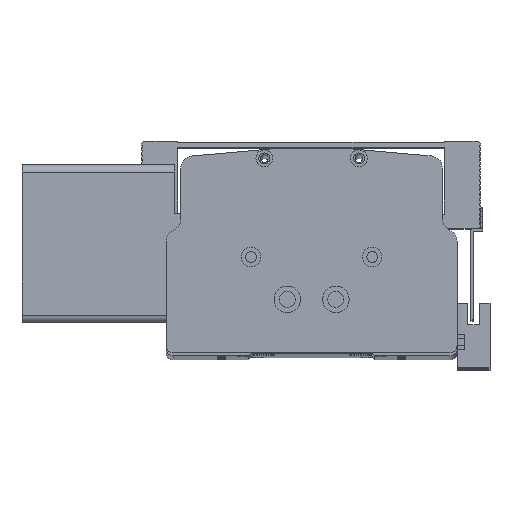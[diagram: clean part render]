
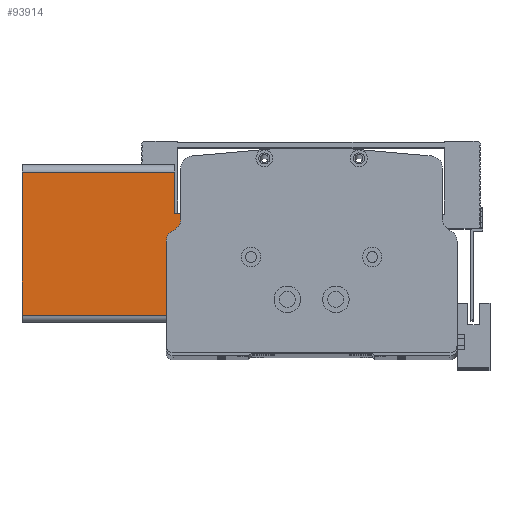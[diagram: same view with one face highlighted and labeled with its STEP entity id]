
A CAD part, top view. The second image highlights one B-rep face of the part: STEP entity #93914.
In plain terms, the highlighted planar face has unit normal (0, 0, 1) as drawn and (-1, 0, 0) by its records, which use the part's own axes.
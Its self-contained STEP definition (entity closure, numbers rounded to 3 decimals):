
#178 = VERTEX_POINT ( 'NONE', #56815 ) ;
#879 = VECTOR ( 'NONE', #89812, 1000. ) ;
#1244 = EDGE_CURVE ( 'NONE', #90099, #17558, #62492, .T. ) ;
#1568 = ORIENTED_EDGE ( 'NONE', *, *, #108590, .F. ) ;
#3600 = DIRECTION ( 'NONE',  ( 0., 0., 1. ) ) ;
#3689 = CARTESIAN_POINT ( 'NONE',  ( 0., 62., 87. ) ) ;
#6384 = LINE ( 'NONE', #107359, #34973 ) ;
#9852 = EDGE_CURVE ( 'NONE', #67020, #52083, #38517, .T. ) ;
#11587 = EDGE_CURVE ( 'NONE', #105458, #17558, #121894, .T. ) ;
#14871 = ORIENTED_EDGE ( 'NONE', *, *, #130652, .F. ) ;
#14914 = CARTESIAN_POINT ( 'NONE',  ( 0., 45., 63. ) ) ;
#15358 = CARTESIAN_POINT ( 'NONE',  ( 0., 0., 0. ) ) ;
#15816 = ORIENTED_EDGE ( 'NONE', *, *, #11587, .F. ) ;
#17558 = VERTEX_POINT ( 'NONE', #125117 ) ;
#30204 = ORIENTED_EDGE ( 'NONE', *, *, #1244, .T. ) ;
#31977 = DIRECTION ( 'NONE',  ( 0., 1., 0. ) ) ;
#32637 = DIRECTION ( 'NONE',  ( 0., -1., 0. ) ) ;
#32892 = LINE ( 'NONE', #57411, #879 ) ;
#33949 = VECTOR ( 'NONE', #55200, 1000. ) ;
#34973 = VECTOR ( 'NONE', #32637, 1000. ) ;
#36052 = VECTOR ( 'NONE', #31977, 1000. ) ;
#36374 = VECTOR ( 'NONE', #123062, 1000. ) ;
#38517 = LINE ( 'NONE', #3689, #67114 ) ;
#39801 = EDGE_CURVE ( 'NONE', #52083, #178, #93564, .T. ) ;
#40607 = ORIENTED_EDGE ( 'NONE', *, *, #39801, .T. ) ;
#47494 = CARTESIAN_POINT ( 'NONE',  ( 0., 62., 0. ) ) ;
#47726 = CARTESIAN_POINT ( 'NONE',  ( 0., 0., 87. ) ) ;
#51282 = DIRECTION ( 'NONE',  ( 0., 0., 1. ) ) ;
#51896 = ORIENTED_EDGE ( 'NONE', *, *, #9852, .T. ) ;
#52083 = VERTEX_POINT ( 'NONE', #47494 ) ;
#54104 = CARTESIAN_POINT ( 'NONE',  ( 0., 45., 73. ) ) ;
#54317 = EDGE_LOOP ( 'NONE', ( #14871, #105423, #51896, #40607, #101331, #1568, #30204, #15816 ) ) ;
#54412 = LINE ( 'NONE', #104818, #79653 ) ;
#55200 = DIRECTION ( 'NONE',  ( 0., 0., -1. ) ) ;
#56815 = CARTESIAN_POINT ( 'NONE',  ( 0., 3., 0. ) ) ;
#57411 = CARTESIAN_POINT ( 'NONE',  ( 0., 0., 87. ) ) ;
#58542 = DIRECTION ( 'NONE',  ( 1., 0., 0. ) ) ;
#62492 = LINE ( 'NONE', #76405, #33949 ) ;
#63549 = CARTESIAN_POINT ( 'NONE',  ( 0., 62., 87. ) ) ;
#67020 = VERTEX_POINT ( 'NONE', #111139 ) ;
#67114 = VECTOR ( 'NONE', #68117, 1000. ) ;
#68117 = DIRECTION ( 'NONE',  ( 0., 0., -1. ) ) ;
#70377 = CARTESIAN_POINT ( 'NONE',  ( 0., 3., 87. ) ) ;
#73768 = EDGE_CURVE ( 'NONE', #178, #119740, #54412, .T. ) ;
#76405 = CARTESIAN_POINT ( 'NONE',  ( 0., 62., 87. ) ) ;
#79653 = VECTOR ( 'NONE', #51282, 1000. ) ;
#79741 = PLANE ( 'NONE',  #128099 ) ;
#89812 = DIRECTION ( 'NONE',  ( 0., -1., 0. ) ) ;
#90099 = VERTEX_POINT ( 'NONE', #63549 ) ;
#93564 = LINE ( 'NONE', #15358, #36374 ) ;
#93914 = ADVANCED_FACE ( 'NONE', ( #106479 ), #79741, .F. ) ;
#96325 = CARTESIAN_POINT ( 'NONE',  ( 0., 80.26, 73. ) ) ;
#99960 = CARTESIAN_POINT ( 'NONE',  ( 0., 45., 63. ) ) ;
#101331 = ORIENTED_EDGE ( 'NONE', *, *, #73768, .T. ) ;
#104818 = CARTESIAN_POINT ( 'NONE',  ( 0., 3., 87. ) ) ;
#105423 = ORIENTED_EDGE ( 'NONE', *, *, #111865, .F. ) ;
#105458 = VERTEX_POINT ( 'NONE', #54104 ) ;
#106479 = FACE_OUTER_BOUND ( 'NONE', #54317, .T. ) ;
#107359 = CARTESIAN_POINT ( 'NONE',  ( 0., 80.26, 63. ) ) ;
#108590 = EDGE_CURVE ( 'NONE', #90099, #119740, #32892, .T. ) ;
#111139 = CARTESIAN_POINT ( 'NONE',  ( 0., 62., 63. ) ) ;
#111353 = LINE ( 'NONE', #99960, #114780 ) ;
#111865 = EDGE_CURVE ( 'NONE', #67020, #116744, #6384, .T. ) ;
#114780 = VECTOR ( 'NONE', #3600, 1000. ) ;
#116744 = VERTEX_POINT ( 'NONE', #14914 ) ;
#119740 = VERTEX_POINT ( 'NONE', #70377 ) ;
#121894 = LINE ( 'NONE', #96325, #36052 ) ;
#123062 = DIRECTION ( 'NONE',  ( 0., -1., 0. ) ) ;
#125117 = CARTESIAN_POINT ( 'NONE',  ( 0., 62., 73. ) ) ;
#128099 = AXIS2_PLACEMENT_3D ( 'NONE', #47726, #58542, #133797 ) ;
#130652 = EDGE_CURVE ( 'NONE', #116744, #105458, #111353, .T. ) ;
#133797 = DIRECTION ( 'NONE',  ( 0., 0., -1. ) ) ;
